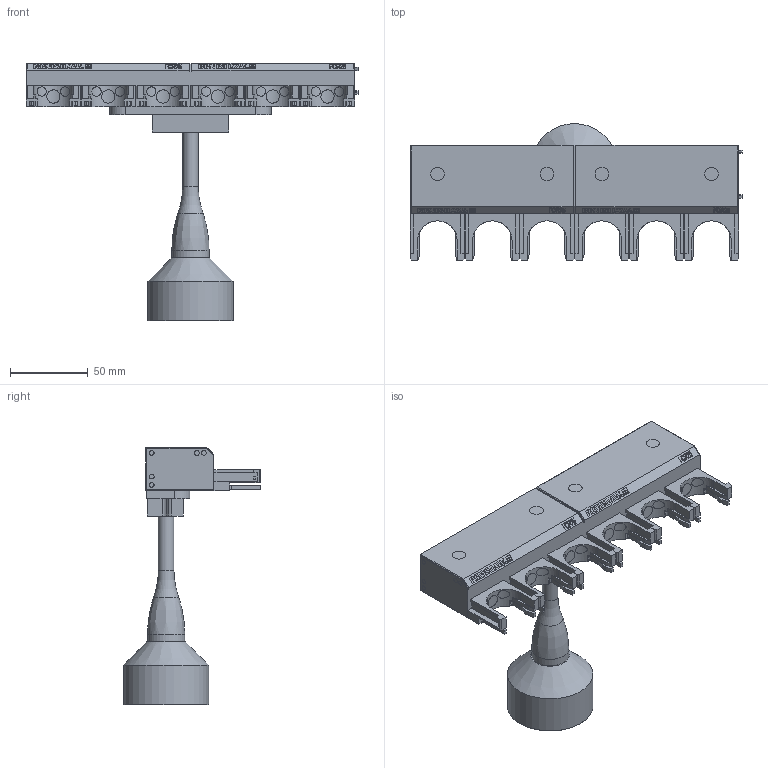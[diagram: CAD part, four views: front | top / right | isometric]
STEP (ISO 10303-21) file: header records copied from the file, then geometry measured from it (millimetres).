
FILE_DESCRIPTION(/* description */ (''),/* implementation_level */ '2;1');
FILE_NAME(/* name */ 'LA-2237-1416#-A.stp',/* time_stamp */ '2012-09-04T14:34:17+01:00',/* author */ (''),/* organization */ (''),/* preprocessor_version */ 'ST-DEVELOPER v11',/* originating_system */ 'SIEMENS PLM Software NX 7.5',/* authorisation */ '');
FILE_SCHEMA (('AUTOMOTIVE_DESIGN { 1 0 10303 214 1 1 1 1 }'));
Length unit declared in the file: millimetre
Products named in the file (1): rt133622tjqf
Bounding box: 213.5 x 88.25 x 165.84 mm (x, y, z)
Volume: 407061 mm3; surface area: 64103.3 mm2
Topology: 1 solids, 1 shells, 518 faces, 1612 edges, 1213 vertices
Faces by surface type: plane 432, cylinder 81, cone 2, bspline 2, torus 1
Full cylindrical faces by diameter (mm): 10 x1, 23.95 x1, 55 x1
Entity records: 23064 total; most frequent: CARTESIAN_POINT 4703, ORIENTED_EDGE 3206, DIRECTION 2758, EDGE_CURVE 1603, LINE 1242, VECTOR 1242, VERTEX_POINT 1211, AXIS2_PLACEMENT_3D 758
